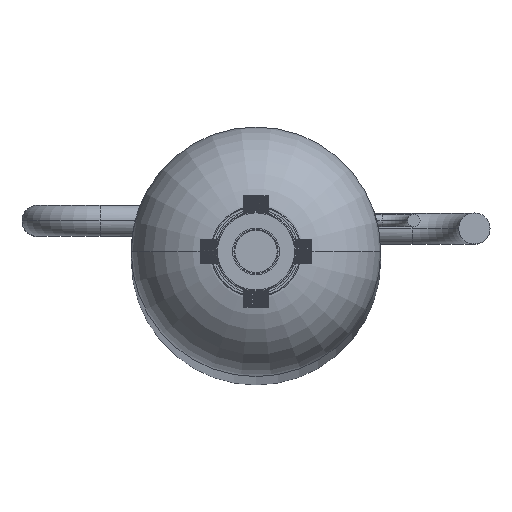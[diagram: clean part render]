
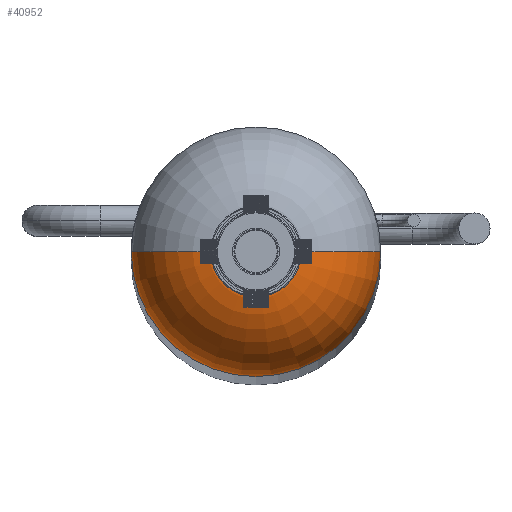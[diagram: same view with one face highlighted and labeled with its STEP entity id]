
A CAD part, top view. The second image highlights one B-rep face of the part: STEP entity #40952.
In plain terms, the highlighted toroidal (fillet/blend) face has major radius 10 mm and minor radius 30 mm.
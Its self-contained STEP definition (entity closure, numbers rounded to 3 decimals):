
#15 = DIRECTION ( 'NONE',  ( 1., 0., 0. ) ) ;
#1045 = CARTESIAN_POINT ( 'NONE',  ( -40., 0., 770. ) ) ;
#1835 = DIRECTION ( 'NONE',  ( 1., 0., 0. ) ) ;
#1942 = AXIS2_PLACEMENT_3D ( 'NONE', #37553, #28931, #28352 ) ;
#2412 = VERTEX_POINT ( 'NONE', #15517 ) ;
#4259 = DIRECTION ( 'NONE',  ( 0., 0., 1. ) ) ;
#4494 = CARTESIAN_POINT ( 'NONE',  ( -10., 0., 770. ) ) ;
#8013 = CARTESIAN_POINT ( 'NONE',  ( 0., 0., 770. ) ) ;
#9564 = CIRCLE ( 'NONE', #23332, 10. ) ;
#12333 = DIRECTION ( 'NONE',  ( 1., 0., 0. ) ) ;
#12808 = EDGE_CURVE ( 'NONE', #13258, #2412, #55858, .T. ) ;
#13258 = VERTEX_POINT ( 'NONE', #1045 ) ;
#15517 = CARTESIAN_POINT ( 'NONE',  ( -10., 0., 800. ) ) ;
#16622 = DIRECTION ( 'NONE',  ( 0., 1., 0. ) ) ;
#17238 = AXIS2_PLACEMENT_3D ( 'NONE', #4494, #16622, #21212 ) ;
#18589 = EDGE_LOOP ( 'NONE', ( #42011, #35737, #32473, #36331 ) ) ;
#19109 = CARTESIAN_POINT ( 'NONE',  ( 0., 0., 800. ) ) ;
#20189 = EDGE_CURVE ( 'NONE', #21191, #44218, #56145, .T. ) ;
#21191 = VERTEX_POINT ( 'NONE', #41477 ) ;
#21212 = DIRECTION ( 'NONE',  ( -1., 0., 0. ) ) ;
#21399 = EDGE_CURVE ( 'NONE', #2412, #44218, #9564, .T. ) ;
#21888 = CARTESIAN_POINT ( 'NONE',  ( 0., 0., 770. ) ) ;
#23332 = AXIS2_PLACEMENT_3D ( 'NONE', #19109, #28611, #1835 ) ;
#26975 = AXIS2_PLACEMENT_3D ( 'NONE', #8013, #4259, #12333 ) ;
#28352 = DIRECTION ( 'NONE',  ( 0., 0., -1. ) ) ;
#28611 = DIRECTION ( 'NONE',  ( 0., 0., 1. ) ) ;
#28931 = DIRECTION ( 'NONE',  ( 0., -1., 0. ) ) ;
#32473 = ORIENTED_EDGE ( 'NONE', *, *, #20189, .T. ) ;
#35737 = ORIENTED_EDGE ( 'NONE', *, *, #43497, .F. ) ;
#36174 = AXIS2_PLACEMENT_3D ( 'NONE', #21888, #47210, #15 ) ;
#36331 = ORIENTED_EDGE ( 'NONE', *, *, #21399, .F. ) ;
#37553 = CARTESIAN_POINT ( 'NONE',  ( 10., 0., 770. ) ) ;
#38808 = FACE_OUTER_BOUND ( 'NONE', #18589, .T. ) ;
#40952 = ADVANCED_FACE ( 'NONE', ( #38808 ), #49912, .T. ) ;
#41434 = CARTESIAN_POINT ( 'NONE',  ( 10., 0., 800. ) ) ;
#41477 = CARTESIAN_POINT ( 'NONE',  ( 40., 0., 770. ) ) ;
#42011 = ORIENTED_EDGE ( 'NONE', *, *, #12808, .F. ) ;
#43497 = EDGE_CURVE ( 'NONE', #21191, #13258, #43510, .T. ) ;
#43510 = CIRCLE ( 'NONE', #36174, 40. ) ;
#44218 = VERTEX_POINT ( 'NONE', #41434 ) ;
#47210 = DIRECTION ( 'NONE',  ( 0., 0., -1. ) ) ;
#49912 = TOROIDAL_SURFACE ( 'NONE', #26975, 10., 30. ) ;
#55858 = CIRCLE ( 'NONE', #17238, 30. ) ;
#56145 = CIRCLE ( 'NONE', #1942, 30. ) ;
